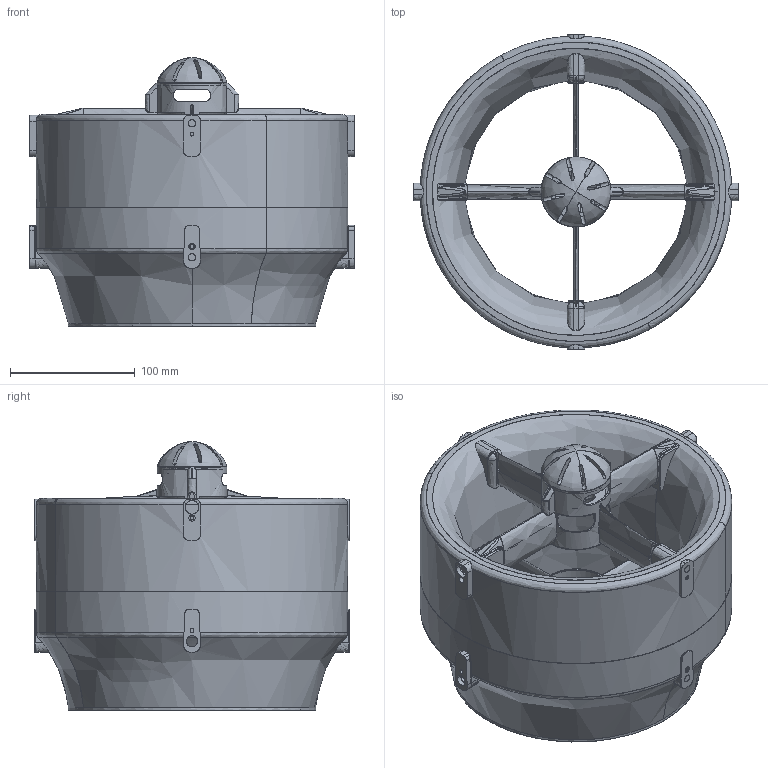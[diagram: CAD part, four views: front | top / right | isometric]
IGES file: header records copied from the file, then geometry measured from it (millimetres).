
Global section: file name: /Users/anthony/Desktop/Athena-A-2ET-V1.60.igs; preprocessor: Trout Lake IGES 012 Mar  6 2017; date: 170818.164725; units: millimetre
Bounding box: 260 x 252 x 215.37 mm (x, y, z)
Surface area: 374662.1 mm2 (no closed solid volume)
Topology: 0 solids, 0 shells, 1404 faces, 11793 edges, 11781 vertices
Faces by surface type: bspline 1404
